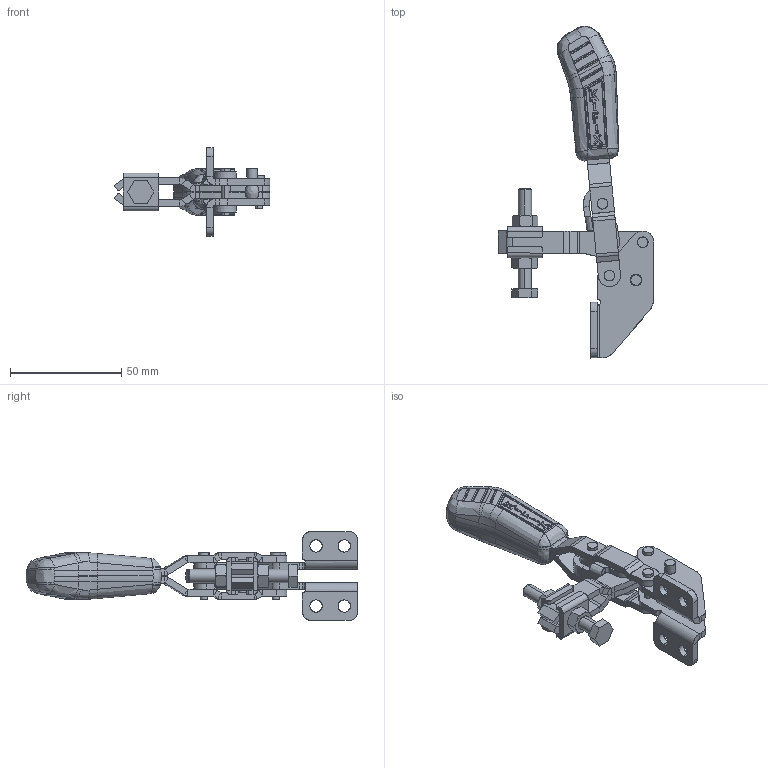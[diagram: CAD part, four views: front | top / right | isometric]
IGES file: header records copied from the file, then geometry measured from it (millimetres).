
Start section: SolidWorks IGES file using analytic representation for surfaces
Global section: file name: C:\Projetos\Grampos\KF-012\KF-012 F\KF-012 F.IGS; native system: SolidWorks 2013; preprocessor: SolidWorks 2013; author: Ricardo; date: 140729.101454; units: millimetre
Bounding box: 70.01 x 149.23 x 40 mm (x, y, z)
Surface area: 29772.4 mm2 (no closed solid volume)
Topology: 0 solids, 0 shells, 1115 faces, 10979 edges, 10925 vertices
Faces by surface type: bspline 664, revolution 451
